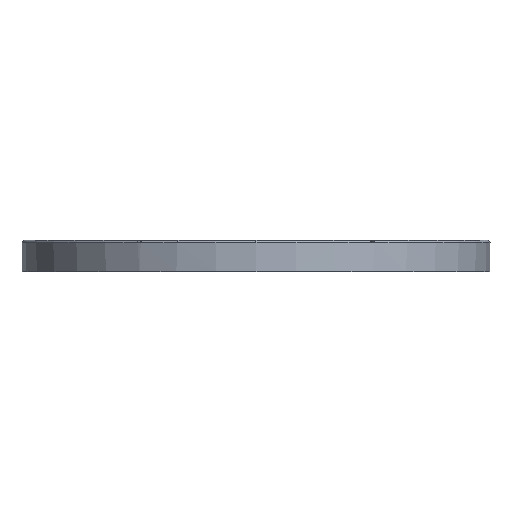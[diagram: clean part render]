
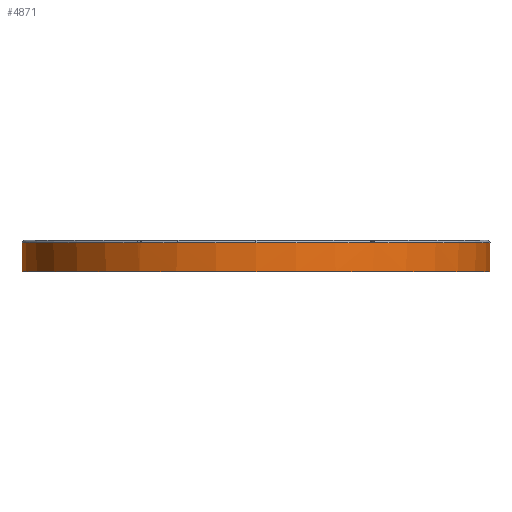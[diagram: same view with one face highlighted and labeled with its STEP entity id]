
A CAD part, front view. The second image highlights one B-rep face of the part: STEP entity #4871.
In plain terms, the highlighted cylindrical face has radius 60 mm (diameter 120 mm), a partial arc.
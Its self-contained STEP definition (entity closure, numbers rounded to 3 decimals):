
#3575 = VERTEX_POINT('',#3576);
#3576 = CARTESIAN_POINT('',(-29.566,-81.655,7.4));
#3632 = VERTEX_POINT('',#3633);
#3633 = CARTESIAN_POINT('',(-30.432,-81.155,7.4));
#3639 = EDGE_CURVE('',#3575,#3632,#3640,.T.);
#3640 = CIRCLE('',#3641,60.);
#3641 = AXIS2_PLACEMENT_3D('',#3642,#3643,#3644);
#3642 = CARTESIAN_POINT('',(0.,-29.445,7.4));
#3643 = DIRECTION('',(0.,0.,-1.));
#3644 = DIRECTION('',(1.,0.,0.));
#3747 = VERTEX_POINT('',#3748);
#3748 = CARTESIAN_POINT('',(-59.998,-29.945,7.4));
#3794 = VERTEX_POINT('',#3795);
#3795 = CARTESIAN_POINT('',(-59.998,-28.945,7.4));
#3801 = EDGE_CURVE('',#3747,#3794,#3802,.T.);
#3802 = CIRCLE('',#3803,60.);
#3803 = AXIS2_PLACEMENT_3D('',#3804,#3805,#3806);
#3804 = CARTESIAN_POINT('',(0.,-29.445,7.4));
#3805 = DIRECTION('',(0.,0.,-1.));
#3806 = DIRECTION('',(1.,0.,0.));
#3949 = VERTEX_POINT('',#3950);
#3950 = CARTESIAN_POINT('',(59.998,-28.945,7.4));
#3994 = VERTEX_POINT('',#3995);
#3995 = CARTESIAN_POINT('',(59.998,-29.945,7.4));
#4001 = EDGE_CURVE('',#3949,#3994,#4002,.T.);
#4002 = CIRCLE('',#4003,60.);
#4003 = AXIS2_PLACEMENT_3D('',#4004,#4005,#4006);
#4004 = CARTESIAN_POINT('',(0.,-29.445,7.4));
#4005 = DIRECTION('',(0.,0.,-1.));
#4006 = DIRECTION('',(1.,0.,0.));
#4093 = VERTEX_POINT('',#4094);
#4094 = CARTESIAN_POINT('',(30.432,-81.155,7.4));
#4158 = VERTEX_POINT('',#4159);
#4159 = CARTESIAN_POINT('',(29.566,-81.655,7.4));
#4165 = EDGE_CURVE('',#4093,#4158,#4166,.T.);
#4166 = CIRCLE('',#4167,60.);
#4167 = AXIS2_PLACEMENT_3D('',#4168,#4169,#4170);
#4168 = CARTESIAN_POINT('',(0.,-29.445,7.4));
#4169 = DIRECTION('',(0.,0.,-1.));
#4170 = DIRECTION('',(1.,0.,0.));
#4834 = VERTEX_POINT('',#4835);
#4835 = CARTESIAN_POINT('',(0.,-89.445,7.4));
#4842 = EDGE_CURVE('',#3575,#4834,#4843,.T.);
#4843 = CIRCLE('',#4844,60.);
#4844 = AXIS2_PLACEMENT_3D('',#4845,#4846,#4847);
#4845 = CARTESIAN_POINT('',(0.,-29.445,7.4));
#4846 = DIRECTION('',(0.,0.,1.));
#4847 = DIRECTION('',(-0.493,-0.87,0.));
#4860 = EDGE_CURVE('',#4834,#4158,#4861,.T.);
#4861 = CIRCLE('',#4862,60.);
#4862 = AXIS2_PLACEMENT_3D('',#4863,#4864,#4865);
#4863 = CARTESIAN_POINT('',(0.,-29.445,7.4));
#4864 = DIRECTION('',(0.,0.,1.));
#4865 = DIRECTION('',(0.,-1.,0.));
#4871 = ADVANCED_FACE('',(#4872),#4935,.T.);
#4872 = FACE_BOUND('',#4873,.F.);
#4873 = EDGE_LOOP('',(#4874,#4884,#4893,#4901,#4908,#4909,#4916,#4917,
    #4918,#4919,#4920,#4927,#4928));
#4874 = ORIENTED_EDGE('',*,*,#4875,.F.);
#4875 = EDGE_CURVE('',#4876,#4878,#4880,.T.);
#4876 = VERTEX_POINT('',#4877);
#4877 = CARTESIAN_POINT('',(52.278,0.,0.));
#4878 = VERTEX_POINT('',#4879);
#4879 = CARTESIAN_POINT('',(52.278,0.,7.4));
#4880 = LINE('',#4881,#4882);
#4881 = CARTESIAN_POINT('',(52.278,0.,0.));
#4882 = VECTOR('',#4883,1.);
#4883 = DIRECTION('',(0.,0.,1.));
#4884 = ORIENTED_EDGE('',*,*,#4885,.F.);
#4885 = EDGE_CURVE('',#4886,#4876,#4888,.T.);
#4886 = VERTEX_POINT('',#4887);
#4887 = CARTESIAN_POINT('',(-52.278,0.,0.));
#4888 = CIRCLE('',#4889,60.);
#4889 = AXIS2_PLACEMENT_3D('',#4890,#4891,#4892);
#4890 = CARTESIAN_POINT('',(0.,-29.445,0.));
#4891 = DIRECTION('',(0.,0.,1.));
#4892 = DIRECTION('',(1.,0.,0.));
#4893 = ORIENTED_EDGE('',*,*,#4894,.T.);
#4894 = EDGE_CURVE('',#4886,#4895,#4897,.T.);
#4895 = VERTEX_POINT('',#4896);
#4896 = CARTESIAN_POINT('',(-52.278,0.,7.4));
#4897 = LINE('',#4898,#4899);
#4898 = CARTESIAN_POINT('',(-52.278,0.,6.));
#4899 = VECTOR('',#4900,1.);
#4900 = DIRECTION('',(0.,0.,1.));
#4901 = ORIENTED_EDGE('',*,*,#4902,.T.);
#4902 = EDGE_CURVE('',#4895,#3794,#4903,.T.);
#4903 = CIRCLE('',#4904,60.);
#4904 = AXIS2_PLACEMENT_3D('',#4905,#4906,#4907);
#4905 = CARTESIAN_POINT('',(0.,-29.445,7.4));
#4906 = DIRECTION('',(0.,0.,1.));
#4907 = DIRECTION('',(-0.871,0.491,0.));
#4908 = ORIENTED_EDGE('',*,*,#3801,.F.);
#4909 = ORIENTED_EDGE('',*,*,#4910,.T.);
#4910 = EDGE_CURVE('',#3747,#3632,#4911,.T.);
#4911 = CIRCLE('',#4912,60.);
#4912 = AXIS2_PLACEMENT_3D('',#4913,#4914,#4915);
#4913 = CARTESIAN_POINT('',(0.,-29.445,7.4));
#4914 = DIRECTION('',(0.,0.,1.));
#4915 = DIRECTION('',(-1.,-0.008,0.));
#4916 = ORIENTED_EDGE('',*,*,#3639,.F.);
#4917 = ORIENTED_EDGE('',*,*,#4842,.T.);
#4918 = ORIENTED_EDGE('',*,*,#4860,.T.);
#4919 = ORIENTED_EDGE('',*,*,#4165,.F.);
#4920 = ORIENTED_EDGE('',*,*,#4921,.T.);
#4921 = EDGE_CURVE('',#4093,#3994,#4922,.T.);
#4922 = CIRCLE('',#4923,60.);
#4923 = AXIS2_PLACEMENT_3D('',#4924,#4925,#4926);
#4924 = CARTESIAN_POINT('',(0.,-29.445,7.4));
#4925 = DIRECTION('',(-0.,0.,1.));
#4926 = DIRECTION('',(0.507,-0.862,0.));
#4927 = ORIENTED_EDGE('',*,*,#4001,.F.);
#4928 = ORIENTED_EDGE('',*,*,#4929,.T.);
#4929 = EDGE_CURVE('',#3949,#4878,#4930,.T.);
#4930 = CIRCLE('',#4931,60.);
#4931 = AXIS2_PLACEMENT_3D('',#4932,#4933,#4934);
#4932 = CARTESIAN_POINT('',(0.,-29.445,7.4));
#4933 = DIRECTION('',(0.,-0.,1.));
#4934 = DIRECTION('',(1.,0.008,0.));
#4935 = CYLINDRICAL_SURFACE('',#4936,60.);
#4936 = AXIS2_PLACEMENT_3D('',#4937,#4938,#4939);
#4937 = CARTESIAN_POINT('',(0.,-29.445,0.));
#4938 = DIRECTION('',(-0.,-0.,-1.));
#4939 = DIRECTION('',(1.,0.,0.));
